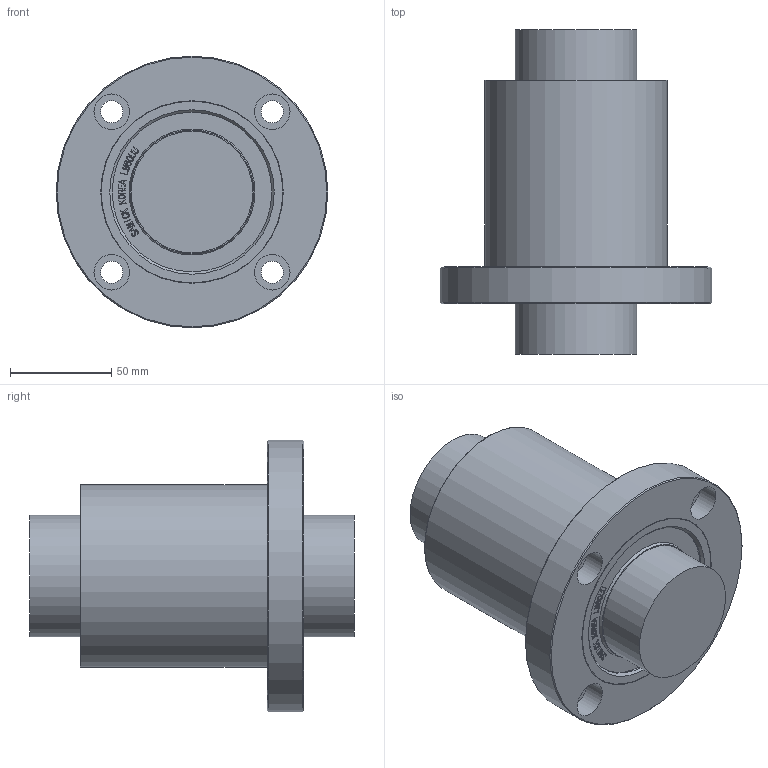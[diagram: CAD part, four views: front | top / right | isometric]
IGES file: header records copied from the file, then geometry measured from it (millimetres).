
Global section: file name: No Iges File Name specified; native system: Autodesk Inventor 2012; preprocessor: AutoDesk Inventor Iges Exporter R2012; author: user2; date: 20130206.160456; units: millimetre
Bounding box: 134 x 160 x 134 mm (x, y, z)
Volume: 959176.6 mm3; surface area: 74941.2 mm2
Topology: 1 solids, 1 shells, 845 faces, 2351 edges, 1566 vertices
Faces by surface type: bspline 600, plane 222, revolution 13, cone 4, cylinder 4, torus 2
Full cylindrical faces by diameter (mm): 60 x2, 90 x1, 134 x1
